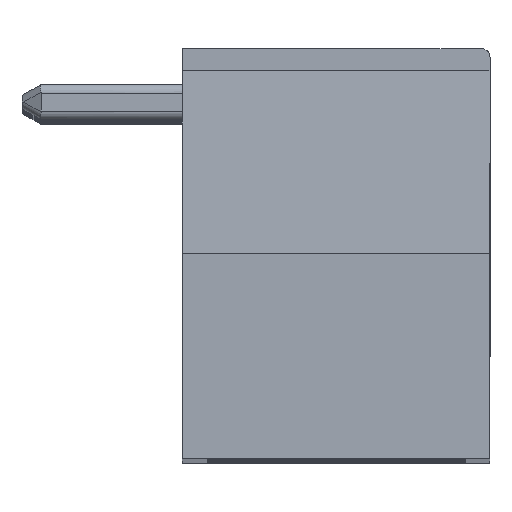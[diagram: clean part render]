
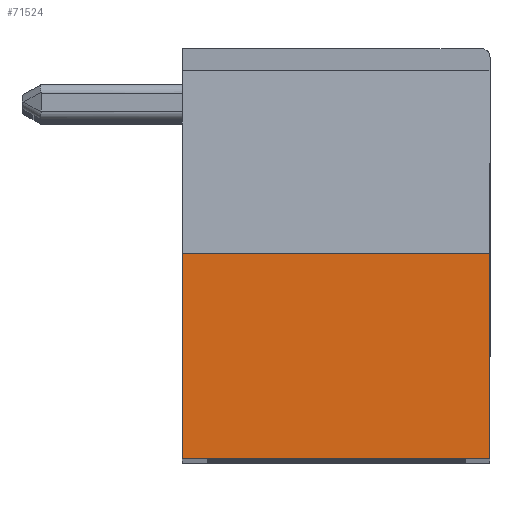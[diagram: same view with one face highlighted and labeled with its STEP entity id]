
A CAD part, top view. The second image highlights one B-rep face of the part: STEP entity #71524.
In plain terms, the highlighted planar face has unit normal (0, 0, 1).
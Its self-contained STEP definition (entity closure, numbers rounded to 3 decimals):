
#21416 = CARTESIAN_POINT ( 'NONE',  ( 4.029, 0.554, 0. ) ) ;
#21417 = DIRECTION ( 'NONE',  ( -1., 0., 0. ) ) ;
#21418 = VECTOR ( 'NONE', #21417, 1000. ) ;
#21419 = CARTESIAN_POINT ( 'NONE',  ( 0.579, 0.554, 0. ) ) ;
#21424 = CARTESIAN_POINT ( 'NONE',  ( -2.871, 0.554, 0. ) ) ;
#21426 = LINE ( 'NONE', #21419, #21418 ) ;
#21558 = CARTESIAN_POINT ( 'NONE',  ( 4.029, -4.046, 0. ) ) ;
#21559 = B_SPLINE_CURVE_WITH_KNOTS ( 'NONE', 3,
 ( #21558, #21604, #21603, #21602 ),
 .UNSPECIFIED., .F., .F.,
 ( 4, 4 ),
 ( 0., 1. ),
 .UNSPECIFIED. ) ;
#21561 = CARTESIAN_POINT ( 'NONE',  ( -2.871, -4.046, 0. ) ) ;
#21562 = DIRECTION ( 'NONE',  ( 0., 1., 0. ) ) ;
#21563 = VECTOR ( 'NONE', #21562, 1000. ) ;
#21564 = CARTESIAN_POINT ( 'NONE',  ( -2.871, 0.554, 0. ) ) ;
#21565 = LINE ( 'NONE', #21564, #21563 ) ;
#21566 = CARTESIAN_POINT ( 'NONE',  ( 4.029, -4.046, 0. ) ) ;
#21567 = CARTESIAN_POINT ( 'NONE',  ( 4.029, -2.512, 0. ) ) ;
#21568 = CARTESIAN_POINT ( 'NONE',  ( 4.029, -0.979, 0. ) ) ;
#21569 = CARTESIAN_POINT ( 'NONE',  ( 4.029, 0.554, 0. ) ) ;
#21570 = CARTESIAN_POINT ( 'NONE',  ( 4.029, -4.046, 0. ) ) ;
#21571 = B_SPLINE_CURVE_WITH_KNOTS ( 'NONE', 3,
 ( #21569, #21568, #21567, #21566 ),
 .UNSPECIFIED., .F., .F.,
 ( 4, 4 ),
 ( 0., 1. ),
 .UNSPECIFIED. ) ;
#21572 = DIRECTION ( 'NONE',  ( 1., 0., 0. ) ) ;
#21573 = DIRECTION ( 'NONE',  ( 0., 0., 1. ) ) ;
#21574 = CARTESIAN_POINT ( 'NONE',  ( -2.871, -4.046, 0. ) ) ;
#21575 = AXIS2_PLACEMENT_3D ( 'NONE', #21574, #21573, #21572 ) ;
#21576 = PLANE ( 'NONE',  #21575 ) ;
#21585 = FACE_OUTER_BOUND ( 'NONE', #71527, .T. ) ;
#21602 = CARTESIAN_POINT ( 'NONE',  ( -2.871, -4.046, 0. ) ) ;
#21603 = CARTESIAN_POINT ( 'NONE',  ( -0.571, -4.046, 0. ) ) ;
#21604 = CARTESIAN_POINT ( 'NONE',  ( 1.729, -4.046, 0. ) ) ;
#71362 = VERTEX_POINT ( 'NONE', #21424 ) ;
#71365 = EDGE_CURVE ( 'NONE', #71366, #71362, #21426, .T. ) ;
#71366 = VERTEX_POINT ( 'NONE', #21416 ) ;
#71524 = ADVANCED_FACE ( 'NONE', ( #21585 ), #21576, .T. ) ;
#71527 = EDGE_LOOP ( 'NONE', ( #71529, #71534, #71535, #71538 ) ) ;
#71529 = ORIENTED_EDGE ( 'NONE', *, *, #71531, .F. ) ;
#71531 = EDGE_CURVE ( 'NONE', #71366, #71532, #21571, .T. ) ;
#71532 = VERTEX_POINT ( 'NONE', #21570 ) ;
#71534 = ORIENTED_EDGE ( 'NONE', *, *, #71365, .T. ) ;
#71535 = ORIENTED_EDGE ( 'NONE', *, *, #71536, .F. ) ;
#71536 = EDGE_CURVE ( 'NONE', #71537, #71362, #21565, .T. ) ;
#71537 = VERTEX_POINT ( 'NONE', #21561 ) ;
#71538 = ORIENTED_EDGE ( 'NONE', *, *, #71539, .F. ) ;
#71539 = EDGE_CURVE ( 'NONE', #71532, #71537, #21559, .T. ) ;
